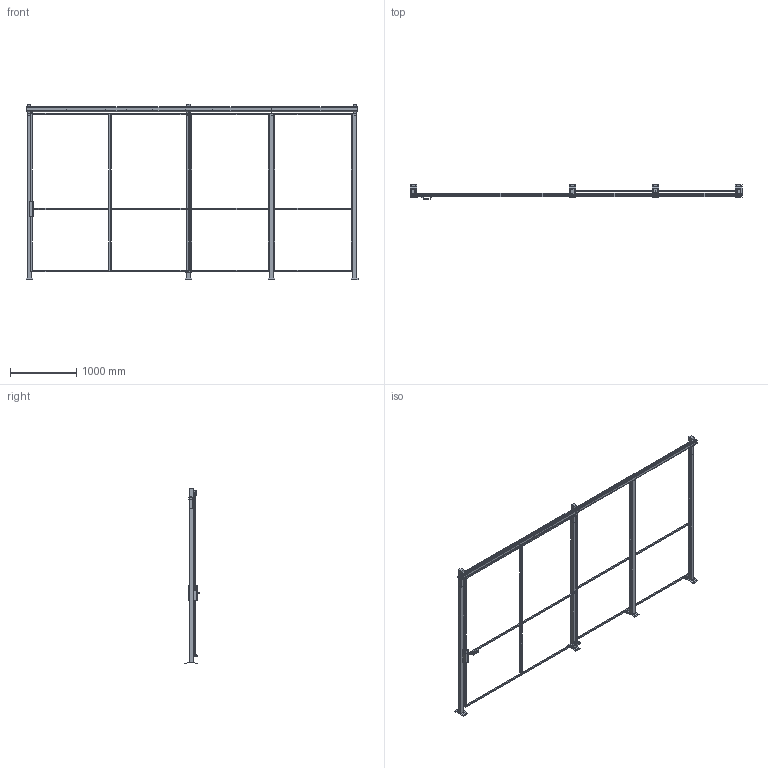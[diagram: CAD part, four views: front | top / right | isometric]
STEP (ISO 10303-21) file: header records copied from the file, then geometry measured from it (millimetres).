
FILE_DESCRIPTION(/* description */ (''),/* implementation_level */ '2;1');
FILE_NAME(/* name */ 'C:\SafeGuarding\ELABORATI\VZOR§POSUVNE_2025-02-05-13-55-22.stp',/* time_stamp */ '2025-02-05T13:55:26+01:00',/* author */ ('admin'),/* organization */ (''),/* preprocessor_version */ 'ST-DEVELOPER v18.1',/* originating_system */ 'AutoCAD Mechanical',/* authorisation */ '');
FILE_SCHEMA (('AUTOMOTIVE_DESIGN { 1 0 10303 214 3 1 1 }'));
Length unit declared in the file: millimetre
Products named in the file (4): Product; VFPA.REPE2012002400; DATI_PORTA; P_VFMA.ME60SDU.2520
Assembly tree (9 placements, depth 2):
  Product
    P_VFMA.ME60SDU.2520  x4
    VFPA.REPE2012002400  x4
    DATI_PORTA
Bounding box: 5030 x 219.95 x 2654 mm (x, y, z)
Volume: 60982352 mm3; surface area: 8476962.5 mm2
Topology: 35 solids, 46 shells, 637 faces, 2242 edges, 2205 vertices
Faces by surface type: plane 587, cylinder 48, sphere 2
Full cylindrical faces by diameter (mm): 11 x16, 12 x2, 15 x4, 40 x4
Entity records: 15055 total; most frequent: CARTESIAN_POINT 3098, ORIENTED_EDGE 2286, DIRECTION 2286, EDGE_CURVE 1192, LINE 1136, VECTOR 1136, VERTEX_POINT 836, AXIS2_PLACEMENT_3D 575
